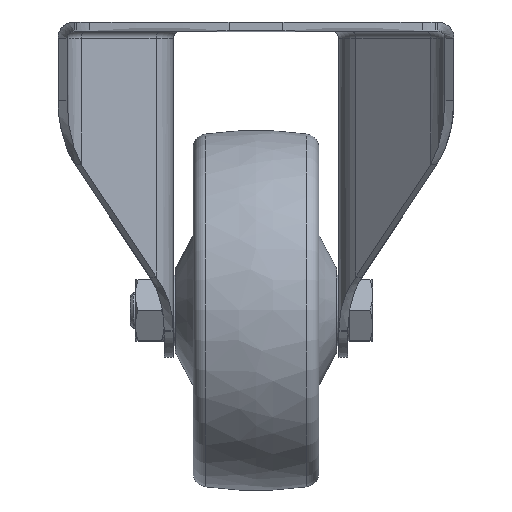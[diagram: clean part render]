
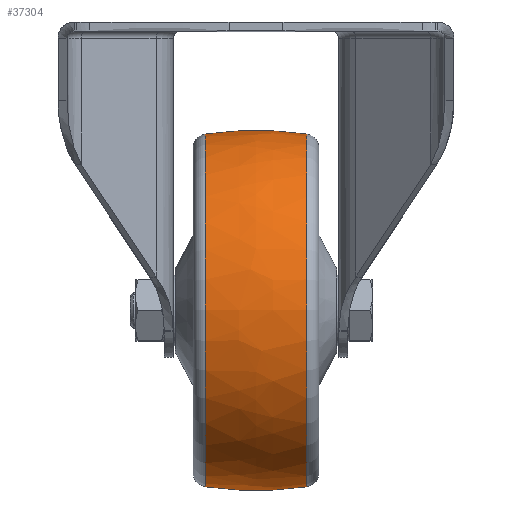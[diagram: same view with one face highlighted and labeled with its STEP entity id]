
A CAD part, top view. The second image highlights one B-rep face of the part: STEP entity #37304.
In plain terms, the highlighted free-form (B-spline) face has degree [3, 3] with [7, 4] control points.
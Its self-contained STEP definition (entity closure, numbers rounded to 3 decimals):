
#307 = CARTESIAN_POINT ( 'NONE',  ( 4.909, 52.207, -27.769 ) ) ;
#499 = CARTESIAN_POINT ( 'NONE',  ( -4.909, 30.992, -50.361 ) ) ;
#701 = CARTESIAN_POINT ( 'NONE',  ( -4.909, -30.992, -50.361 ) ) ;
#914 = CARTESIAN_POINT ( 'NONE',  ( 14.621, -30.109, -48.925 ) ) ;
#1138 = CARTESIAN_POINT ( 'NONE',  ( 14.621, 48.829, 3.072 ) ) ;
#3589 = CARTESIAN_POINT ( 'NONE',  ( -14.063, 0., 0. ) ) ;
#5404 = CARTESIAN_POINT ( 'NONE',  ( -14.621, 30.109, -48.925 ) ) ;
#5622 = CARTESIAN_POINT ( 'NONE',  ( 4.909, -52.207, -27.769 ) ) ;
#5824 = CARTESIAN_POINT ( 'NONE',  ( -14.621, 0., -48.925 ) ) ;
#5996 = VERTEX_POINT ( 'NONE', #19693 ) ;
#10073 = CARTESIAN_POINT ( 'NONE',  ( 4.909, 50.261, 3.162 ) ) ;
#10471 = CARTESIAN_POINT ( 'NONE',  ( 14.621, 50.719, -26.977 ) ) ;
#10816 = DIRECTION ( 'NONE',  ( 0.141, 0.99, 0. ) ) ;
#10881 = CARTESIAN_POINT ( 'NONE',  ( -14.621, 50.719, -26.977 ) ) ;
#11348 = CIRCLE ( 'NONE', #43444, 100. ) ;
#11733 = EDGE_LOOP ( 'NONE', ( #56341, #59013, #34049, #21497 ) ) ;
#12386 = AXIS2_PLACEMENT_3D ( 'NONE', #3589, #56228, #27084 ) ;
#14366 = FACE_OUTER_BOUND ( 'NONE', #11733, .T. ) ;
#14470 = EDGE_CURVE ( 'NONE', #48596, #51980, #11348, .T. ) ;
#15173 = CARTESIAN_POINT ( 'NONE',  ( 4.909, 0., -50.361 ) ) ;
#15587 = CARTESIAN_POINT ( 'NONE',  ( 14.621, -50.719, -26.977 ) ) ;
#16617 = CARTESIAN_POINT ( 'NONE',  ( -4.909, -50.261, 3.162 ) ) ;
#17057 = DIRECTION ( 'NONE',  ( 0.141, -0.99, 0. ) ) ;
#19693 = CARTESIAN_POINT ( 'NONE',  ( 14.063, 49.006, 0. ) ) ;
#19778 = CARTESIAN_POINT ( 'NONE',  ( -14.621, 48.829, 3.072 ) ) ;
#20223 = CARTESIAN_POINT ( 'NONE',  ( -14.063, -49.006, 0. ) ) ;
#20393 = CARTESIAN_POINT ( 'NONE',  ( -14.621, -50.719, -26.977 ) ) ;
#20431 =( BOUNDED_SURFACE ( )  B_SPLINE_SURFACE ( 3, 3, ( 
 ( #1138, #10073, #49046, #19778 ),
 ( #10471, #307, #25027, #10881 ),
 ( #24405, #58640, #499, #5404 ),
 ( #39231, #15173, #24806, #5824 ),
 ( #914, #44558, #701, #34577 ),
 ( #15587, #5622, #49471, #20393 ),
 ( #39433, #35839, #16617, #35213 ) ),
 .UNSPECIFIED., .F., .F., .T. ) 
 B_SPLINE_SURFACE_WITH_KNOTS ( ( 4, 3, 4 ),
 ( 4, 4 ),
 ( 0., 1., 2. ),
 ( 0., 1. ),
 .UNSPECIFIED. ) 
 GEOMETRIC_REPRESENTATION_ITEM ( )  RATIONAL_B_SPLINE_SURFACE ( (
 ( 1.194, 1.185, 1.185, 1.194),
 ( 0.943, 0.936, 0.936, 0.943),
 ( 0.943, 0.936, 0.936, 0.943),
 ( 1.194, 1.185, 1.185, 1.194),
 ( 0.943, 0.936, 0.936, 0.943),
 ( 0.943, 0.936, 0.936, 0.943),
 ( 1.194, 1.185, 1.185, 1.194) ) ) 
 REPRESENTATION_ITEM ( '' )  SURFACE ( )  );
#21265 = EDGE_CURVE ( 'NONE', #5996, #33735, #50229, .T. ) ;
#21497 = ORIENTED_EDGE ( 'NONE', *, *, #14470, .T. ) ;
#22622 = CIRCLE ( 'NONE', #12386, 49.006 ) ;
#24405 = CARTESIAN_POINT ( 'NONE',  ( 14.621, 30.109, -48.925 ) ) ;
#24806 = CARTESIAN_POINT ( 'NONE',  ( -4.909, 0., -50.361 ) ) ;
#25027 = CARTESIAN_POINT ( 'NONE',  ( -4.909, 52.207, -27.769 ) ) ;
#27084 = DIRECTION ( 'NONE',  ( 0., -1., 0. ) ) ;
#27149 = CARTESIAN_POINT ( 'NONE',  ( 14.063, -49.006, 0. ) ) ;
#32034 = AXIS2_PLACEMENT_3D ( 'NONE', #54960, #44932, #10816 ) ;
#33735 = VERTEX_POINT ( 'NONE', #36021 ) ;
#34049 = ORIENTED_EDGE ( 'NONE', *, *, #47593, .F. ) ;
#34577 = CARTESIAN_POINT ( 'NONE',  ( -14.621, -30.109, -48.925 ) ) ;
#35213 = CARTESIAN_POINT ( 'NONE',  ( -14.621, -48.829, 3.072 ) ) ;
#35839 = CARTESIAN_POINT ( 'NONE',  ( 4.909, -50.261, 3.162 ) ) ;
#36021 = CARTESIAN_POINT ( 'NONE',  ( -14.063, 49.006, 0. ) ) ;
#36857 = DIRECTION ( 'NONE',  ( 0., -1., 0. ) ) ;
#37304 = ADVANCED_FACE ( 'NONE', ( #14366 ), #20431, .T. ) ;
#39020 = CIRCLE ( 'NONE', #51404, 49.006 ) ;
#39231 = CARTESIAN_POINT ( 'NONE',  ( 14.621, 0., -48.925 ) ) ;
#39433 = CARTESIAN_POINT ( 'NONE',  ( 14.621, -48.829, 3.072 ) ) ;
#39522 = EDGE_CURVE ( 'NONE', #51980, #33735, #22622, .T. ) ;
#41142 = CARTESIAN_POINT ( 'NONE',  ( 0., 50., 0. ) ) ;
#41702 = DIRECTION ( 'NONE',  ( 1., 0., 0. ) ) ;
#43444 = AXIS2_PLACEMENT_3D ( 'NONE', #41142, #45855, #17057 ) ;
#44558 = CARTESIAN_POINT ( 'NONE',  ( 4.909, -30.992, -50.361 ) ) ;
#44932 = DIRECTION ( 'NONE',  ( 0., 0., 1. ) ) ;
#45855 = DIRECTION ( 'NONE',  ( 0., 0., -1. ) ) ;
#47593 = EDGE_CURVE ( 'NONE', #48596, #5996, #39020, .T. ) ;
#48596 = VERTEX_POINT ( 'NONE', #27149 ) ;
#49046 = CARTESIAN_POINT ( 'NONE',  ( -4.909, 50.261, 3.162 ) ) ;
#49471 = CARTESIAN_POINT ( 'NONE',  ( -4.909, -52.207, -27.769 ) ) ;
#50229 = CIRCLE ( 'NONE', #32034, 100. ) ;
#51338 = CARTESIAN_POINT ( 'NONE',  ( 14.063, 0., 0. ) ) ;
#51404 = AXIS2_PLACEMENT_3D ( 'NONE', #51338, #41702, #36857 ) ;
#51980 = VERTEX_POINT ( 'NONE', #20223 ) ;
#54960 = CARTESIAN_POINT ( 'NONE',  ( 0., -50., 0. ) ) ;
#56228 = DIRECTION ( 'NONE',  ( 1., 0., 0. ) ) ;
#56341 = ORIENTED_EDGE ( 'NONE', *, *, #39522, .T. ) ;
#58640 = CARTESIAN_POINT ( 'NONE',  ( 4.909, 30.992, -50.361 ) ) ;
#59013 = ORIENTED_EDGE ( 'NONE', *, *, #21265, .F. ) ;
